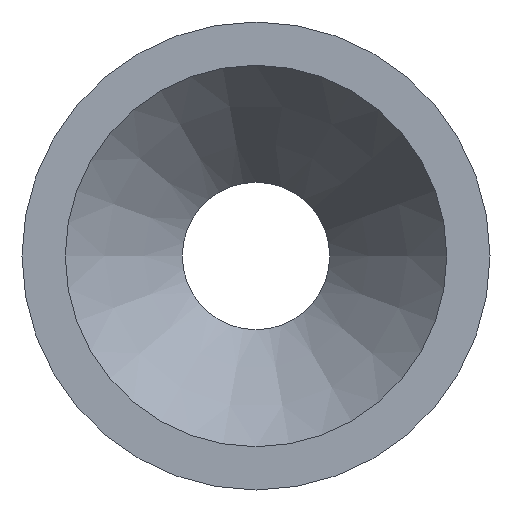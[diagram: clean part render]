
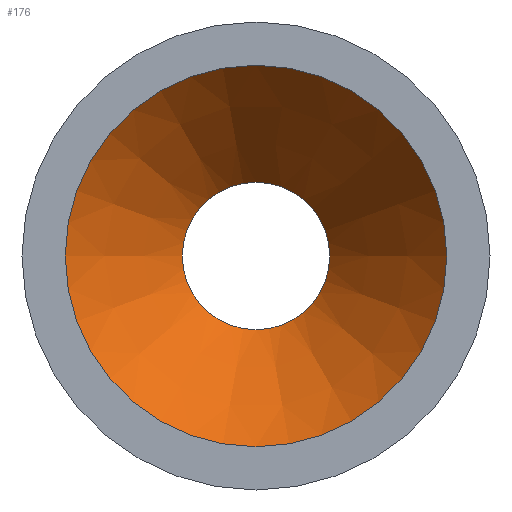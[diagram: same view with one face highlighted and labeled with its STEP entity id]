
A CAD part, left-side view. The second image highlights one B-rep face of the part: STEP entity #176.
In plain terms, the highlighted conical face has half-angle 37.569 degrees and reference radius 11.3 mm.
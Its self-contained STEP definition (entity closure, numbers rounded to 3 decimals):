
#128=CARTESIAN_POINT('',(56.742,6.3,0.));
#129=VERTEX_POINT('',#128);
#136=CARTESIAN_POINT('',(56.742,0.,0.));
#137=DIRECTION('',(1.,0.,0.));
#138=DIRECTION('',(0.,1.,0.));
#139=AXIS2_PLACEMENT_3D('',#136,#137,#138);
#140=CIRCLE('',#139,6.3);
#141=EDGE_CURVE('',#129,#129,#140,.T.);
#152=ORIENTED_EDGE('',*,*,#141,.T.);
#153=CARTESIAN_POINT('',(43.742,16.3,0.));
#154=VERTEX_POINT('',#153);
#155=CARTESIAN_POINT('',(50.242,11.3,0.));
#156=DIRECTION('',(0.793,-0.61,0.));
#157=VECTOR('',#156,11.3);
#158=LINE('',#155,#157);
#159=EDGE_CURVE('',#154,#129,#158,.T.);
#160=ORIENTED_EDGE('',*,*,#159,.F.);
#161=CARTESIAN_POINT('',(43.742,0.,0.));
#162=DIRECTION('',(1.,0.,0.));
#163=DIRECTION('',(0.,1.,0.));
#164=AXIS2_PLACEMENT_3D('',#161,#162,#163);
#165=CIRCLE('',#164,16.3);
#166=EDGE_CURVE('',#154,#154,#165,.T.);
#167=ORIENTED_EDGE('',*,*,#166,.F.);
#168=ORIENTED_EDGE('',*,*,#159,.T.);
#169=EDGE_LOOP('',(#152,#160,#167,#168));
#170=FACE_OUTER_BOUND('',#169,.T.);
#171=CARTESIAN_POINT('',(50.242,0.,0.));
#172=DIRECTION('',(-1.,0.,0.));
#173=DIRECTION('',(0.,1.,0.));
#174=AXIS2_PLACEMENT_3D('',#171,#172,#173);
#175=CONICAL_SURFACE('',#174,11.3,0.656);
#176=ADVANCED_FACE('',(#170),#175,.F.);
